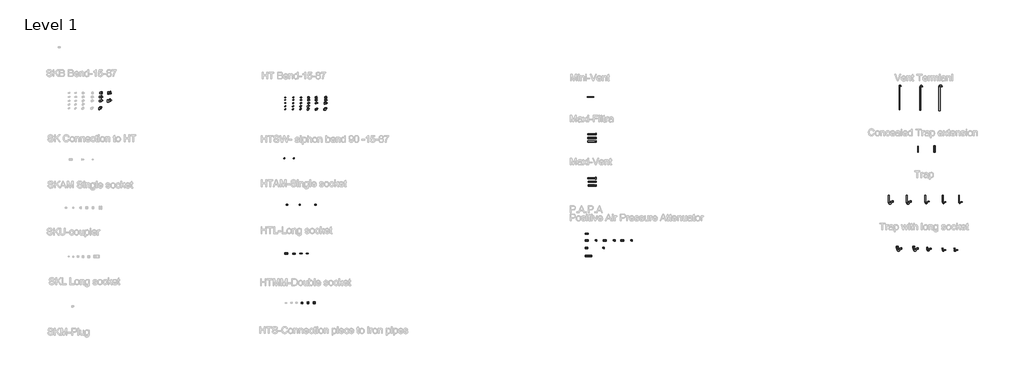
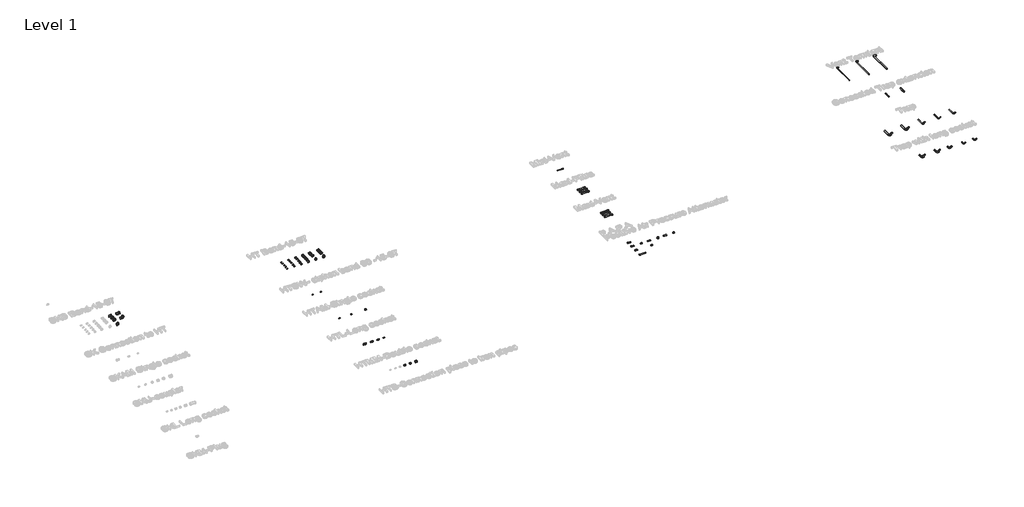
# One storey, part 3 of 29: 61 pipe fittings, 13 pipe segments, 11 valves, 3 coverings.
"""IFC4 building model written with IfcOpenShell, lengths in millimetres."""

from ifc_helpers import new_model, si_unit, point, frame, frame_2d, origin, place, context, project, spatial, circle_curve, trimmed, segment, composite_curve, outline, extrude, transform, mapped, element, save
from components import std_c07d875e, pipe_fitting_6eb50a13, pipe_fitting_cccb87dc, pipe_fitting_fc833b45, pipe_fitting_c942d72f, pipe_fitting_0ed91284, pipe_fitting_b6990175, pipe_fitting_fd9ef2f7, pipe_fitting_66c96be0, pipe_fitting_a0dc6f73, pipe_fitting_2e0013b4, pipe_fitting_27500b87, pipe_fitting_448b761f, pipe_fitting_0d2e54e3, pipe_fitting_0356ee62, pipe_fitting_aafaf56d, pipe_fitting_bdeb5dc4, pipe_fitting_e31660b5, pipe_fitting_5491f5a7, pipe_fitting_a182db8e, pipe_fitting_f3c7474d, pipe_fitting_cb3342d3, pipe_fitting_176e569c, pipe_fitting_4040f774, pipe_fitting_87851de1, pipe_fitting_66a794e8, pipe_fitting_19b4c73e, pipe_fitting_7f627d22, pipe_fitting_5a3bc76c, pipe_fitting_a134182b, pipe_fitting_02cc564f, pipe_fitting_0a0cbaeb, pipe_fitting_b2053ce9, pipe_fitting_914f9591, pipe_fitting_105f839c, pipe_fitting_70a45752, pipe_fitting_c8df41f9, pipe_fitting_53c34404, pipe_fitting_a6189db2, pipe_fitting_67239808, pipe_fitting_48ac60f8, pipe_fitting_af56b474, pipe_fitting_9ea7e918, pipe_fitting_4dd23337, pipe_fitting_79083c1f, pipe_fitting_0d33240f, pipe_fitting_ad0c7a06, pipe_fitting_799c62f6, pipe_fitting_26a0cade, pipe_fitting_4485368d, pipe_fitting_3becbbaa, pipe_fitting_54a89096, pipe_fitting_37d2b716, pipe_fitting_0eb0e26d, pipe_fitting_2dfee5c5, pipe_fitting_c8fc06a6, pipe_fitting_be7a3b5e, pipe_fitting_2ccdf74a, pipe_fitting_dd2cafb6, pipe_fitting_202c8df2, valve_b1cd4743, valve_471c44af, valve_1a6bec72, std_7a792acf

model = new_model("IFC4")

# Units and contexts
model_context = context("Model", 3, world=origin())
ifc_project = project(units=[si_unit("LENGTHUNIT", "METRE", prefix="MILLI")], contexts=[model_context])

# Site, building, storey
site = spatial("IfcSite", under=ifc_project)
building = spatial("IfcBuilding", under=site)
storey = spatial("IfcBuildingStorey", under=building, Name="Level 1", Elevation=0.0)

# Coverings
placement = place(None, origin())
std_shape = std_c07d875e(model_context)
element("IfcCovering", 1, ObjectType="Superdrain_alu cover -sh : std", at=placement, inside=storey, context=model_context, shape_type="MappedRepresentation", body=[
    mapped(std_shape, transform((44076.9523644, 17155.0245715, -0.0813961), x_axis=(0.00045242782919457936, 0.0, -0.9999998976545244), y_axis=(0.0, 0.9999999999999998, 0.0), z_axis=(0.9999998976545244, 0.0, 0.00045242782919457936))),
])
element("IfcCovering", 2, ObjectType="Superdrain_alu cover -sh : std", at=placement, inside=storey, context=model_context, shape_type="MappedRepresentation", body=[
    mapped(std_shape, transform((44087.6298597, 20724.1021309, -0.0813961), x_axis=(0.00045242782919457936, 0.0, -0.9999998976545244), y_axis=(0.0, 0.9999999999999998, 0.0), z_axis=(0.9999998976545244, 0.0, 0.00045242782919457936))),
])
element("IfcCovering", 3, ObjectType="Superdrain_alu cover -sh : std", at=placement, inside=storey, context=model_context, shape_type="MappedRepresentation", body=[
    mapped(std_shape, transform((45739.8178273, 11635.5641477, 0.0), x_axis=(0.0, 0.0, -1.0000000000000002), y_axis=(0.0, 1.0000000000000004, 0.0), z_axis=(1.0000000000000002, 0.0, 0.0))),
])

# Pipe fittings
pipe_fitting_shape = pipe_fitting_6eb50a13(model_context)
element("IfcPipeFitting", 4, ObjectType="Superdrain Vent Termianl : Superdrain Vent Termianl DN 50", at=placement, inside=storey, context=model_context, shape_type="MappedRepresentation", body=[
    mapped(pipe_fitting_shape, transform((71024.0446005, 23242.2226008, 249.0), x_axis=(1.0, 0.0, 0.0), y_axis=(0.0, 0.0, -1.0000000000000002), z_axis=(0.0, 1.0000000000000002, 0.0))),
])
pipe_fitting_2_shape = pipe_fitting_cccb87dc(model_context)
element("IfcPipeFitting", 5, ObjectType="Superdrain Vent Termianl : Superdrain Vent Termianl DN 75", at=placement, inside=storey, context=model_context, shape_type="MappedRepresentation", body=[
    mapped(pipe_fitting_2_shape, transform((72877.6964069, 23161.7714918, 249.0), x_axis=(1.0, 0.0, 0.0), y_axis=(0.0, 0.0, -1.0000000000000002), z_axis=(0.0, 1.0000000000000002, 0.0))),
])
pipe_fitting_3_shape = pipe_fitting_fc833b45(model_context)
element("IfcPipeFitting", 6, ObjectType="Superdrain Vent Termianl : Superdrain Vent Termianl DN 110", at=placement, inside=storey, context=model_context, shape_type="MappedRepresentation", body=[
    mapped(pipe_fitting_3_shape, transform((74564.3080035, 23114.8913816, 249.0), x_axis=(1.0, 0.0, 0.0), y_axis=(0.0, 0.0, -1.0000000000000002), z_axis=(0.0, 1.0000000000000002, 0.0))),
])
pipe_fitting_4_shape = pipe_fitting_c942d72f(model_context)
element("IfcPipeFitting", 7, ObjectType="Superdrain Concealed Trap extension : Superdrain Concealed Trap extension DN 50", at=placement, inside=storey, context=model_context, shape_type="MappedRepresentation", body=[
    mapped(pipe_fitting_4_shape, transform((72675.0256768, 19459.0765179, 275.0), x_axis=(0.0, 0.0, 1.0000000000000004), y_axis=(1.0000000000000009, 0.0, 0.0), z_axis=(0.0, 1.0000000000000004, 0.0))),
])
pipe_fitting_5_shape = pipe_fitting_0ed91284(model_context)
element("IfcPipeFitting", 8, ObjectType="Superdrain Concealed Trap extension : Superdrain Concealed Trap extension DN 110", at=placement, inside=storey, context=model_context, shape_type="MappedRepresentation", body=[
    mapped(pipe_fitting_5_shape, transform((74131.9084226, 19446.5765179, 294.8751277), x_axis=(0.0, 0.0, -1.0000000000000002), y_axis=(-1.0000000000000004, 0.0, 0.0), z_axis=(0.0, 1.0000000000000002, 0.0))),
])
pipe_fitting_6_shape = pipe_fitting_b6990175(model_context)
element("IfcPipeFitting", 9, ObjectType="Superdrain SKB Bend : Superdrain SKB Bend", at=placement, inside=storey, context=model_context, shape_type="MappedRepresentation", body=[
    mapped(pipe_fitting_6_shape, transform((250.4794661, 24709.074399, 0.0), x_axis=(1.0, 0.0, 0.0), y_axis=(0.0, 1.0, 0.0), z_axis=(0.0, 0.0, 1.0))),
])
pipe_fitting_7_shape = pipe_fitting_fd9ef2f7(model_context)
element("IfcPipeFitting", 10, ObjectType="Superdrain SKB Bend : Superdrain SKB Bend", at=placement, inside=storey, context=model_context, shape_type="MappedRepresentation", body=[
    mapped(pipe_fitting_7_shape, transform((250.4794661, 24352.4698153, 0.0), x_axis=(1.0, 0.0, 0.0), y_axis=(0.0, 1.0, 0.0), z_axis=(0.0, 0.0, 1.0))),
])
pipe_fitting_8_shape = pipe_fitting_66c96be0(model_context)
element("IfcPipeFitting", 11, ObjectType="Superdrain SKB Bend : Superdrain SKB Bend", at=placement, inside=storey, context=model_context, shape_type="MappedRepresentation", body=[
    mapped(pipe_fitting_8_shape, transform((250.4794661, 23995.8652317, 0.0), x_axis=(1.0, 0.0, 0.0), y_axis=(0.0, 1.0, 0.0), z_axis=(0.0, 0.0, 1.0))),
])
pipe_fitting_9_shape = pipe_fitting_a0dc6f73(model_context)
element("IfcPipeFitting", 12, ObjectType="Superdrain SKB Bend : Superdrain SKB Bend", at=placement, inside=storey, context=model_context, shape_type="MappedRepresentation", body=[
    mapped(pipe_fitting_9_shape, transform((250.4794661, 23322.0453883, 0.0), x_axis=(1.0, 0.0, 0.0), y_axis=(0.0, 1.0, 0.0), z_axis=(0.0, 0.0, 1.0))),
])
pipe_fitting_10_shape = pipe_fitting_2e0013b4(model_context)
element("IfcPipeFitting", 13, ObjectType="Superdrain SKB Bend : Superdrain SKB Bend", at=placement, inside=storey, context=model_context, shape_type="MappedRepresentation", body=[
    mapped(pipe_fitting_10_shape, transform((999.3677338, 24709.074399, 0.0), x_axis=(1.0, 0.0, 0.0), y_axis=(0.0, 1.0, 0.0), z_axis=(0.0, 0.0, 1.0))),
])
pipe_fitting_11_shape = pipe_fitting_27500b87(model_context)
element("IfcPipeFitting", 14, ObjectType="Superdrain SKB Bend : Superdrain SKB Bend", at=placement, inside=storey, context=model_context, shape_type="MappedRepresentation", body=[
    mapped(pipe_fitting_11_shape, transform((999.3677338, 23995.8652317, 0.0), x_axis=(1.0, 0.0, 0.0), y_axis=(0.0, 1.0, 0.0), z_axis=(0.0, 0.0, 1.0))),
])
pipe_fitting_12_shape = pipe_fitting_448b761f(model_context)
element("IfcPipeFitting", 15, ObjectType="Superdrain HT bend : Superdrain HT Bend", at=placement, inside=storey, context=model_context, shape_type="MappedRepresentation", body=[
    mapped(pipe_fitting_12_shape, transform((16595.9305474, 24312.7216197, 0.0), x_axis=(1.0, 0.0, 0.0), y_axis=(0.0, 1.0, 0.0), z_axis=(0.0, 0.0, 1.0))),
])
pipe_fitting_13_shape = pipe_fitting_0d2e54e3(model_context)
element("IfcPipeFitting", 16, ObjectType="Superdrain HT bend : Superdrain HT Bend", at=placement, inside=storey, context=model_context, shape_type="MappedRepresentation", body=[
    mapped(pipe_fitting_13_shape, transform((16595.9305474, 24084.365173, 0.0), x_axis=(1.0, 0.0, 0.0), y_axis=(0.0, 1.0, 0.0), z_axis=(0.0, 0.0, 1.0))),
])
pipe_fitting_14_shape = pipe_fitting_0356ee62(model_context)
element("IfcPipeFitting", 17, ObjectType="Superdrain HT bend : Superdrain HT Bend", at=placement, inside=storey, context=model_context, shape_type="MappedRepresentation", body=[
    mapped(pipe_fitting_14_shape, transform((16595.9305474, 23801.2668768, 0.0), x_axis=(1.0, 0.0, 0.0), y_axis=(0.0, 1.0, 0.0), z_axis=(0.0, 0.0, 1.0))),
])
pipe_fitting_15_shape = pipe_fitting_aafaf56d(model_context)
element("IfcPipeFitting", 18, ObjectType="Superdrain HT bend : Superdrain HT Bend", at=placement, inside=storey, context=model_context, shape_type="MappedRepresentation", body=[
    mapped(pipe_fitting_15_shape, transform((16595.9305474, 23512.7522037, 0.0), x_axis=(1.0, 0.0, 0.0), y_axis=(0.0, 1.0, 0.0), z_axis=(0.0, 0.0, 1.0))),
])
pipe_fitting_16_shape = pipe_fitting_bdeb5dc4(model_context)
element("IfcPipeFitting", 19, ObjectType="Superdrain HT bend : Superdrain HT Bend", at=placement, inside=storey, context=model_context, shape_type="MappedRepresentation", body=[
    mapped(pipe_fitting_16_shape, transform((16595.9305474, 23244.710463, 0.0), x_axis=(1.0, 0.0, 0.0), y_axis=(0.0, 1.0, 0.0), z_axis=(0.0, 0.0, 1.0))),
])
pipe_fitting_17_shape = pipe_fitting_e31660b5(model_context)
element("IfcPipeFitting", 20, ObjectType="Superdrain HT bend : Superdrain HT Bend", at=placement, inside=storey, context=model_context, shape_type="MappedRepresentation", body=[
    mapped(pipe_fitting_17_shape, transform((17295.9305474, 24312.7216197, 0.0), x_axis=(1.0, 0.0, 0.0), y_axis=(0.0, 1.0, 0.0), z_axis=(0.0, 0.0, 1.0))),
])
pipe_fitting_18_shape = pipe_fitting_5491f5a7(model_context)
element("IfcPipeFitting", 21, ObjectType="Superdrain HT bend : Superdrain HT Bend", at=placement, inside=storey, context=model_context, shape_type="MappedRepresentation", body=[
    mapped(pipe_fitting_18_shape, transform((17295.9305474, 24084.365173, 0.0), x_axis=(1.0, 0.0, 0.0), y_axis=(0.0, 1.0, 0.0), z_axis=(0.0, 0.0, 1.0))),
])
pipe_fitting_19_shape = pipe_fitting_a182db8e(model_context)
element("IfcPipeFitting", 22, ObjectType="Superdrain HT bend : Superdrain HT Bend", at=placement, inside=storey, context=model_context, shape_type="MappedRepresentation", body=[
    mapped(pipe_fitting_19_shape, transform((17295.9305474, 23801.2668768, 0.0), x_axis=(1.0, 0.0, 0.0), y_axis=(0.0, 1.0, 0.0), z_axis=(0.0, 0.0, 1.0))),
])
pipe_fitting_20_shape = pipe_fitting_f3c7474d(model_context)
element("IfcPipeFitting", 23, ObjectType="Superdrain HT bend : Superdrain HT Bend", at=placement, inside=storey, context=model_context, shape_type="MappedRepresentation", body=[
    mapped(pipe_fitting_20_shape, transform((17295.9305474, 23512.7522037, 0.0), x_axis=(1.0, 0.0, 0.0), y_axis=(0.0, 1.0, 0.0), z_axis=(0.0, 0.0, 1.0))),
])
pipe_fitting_21_shape = pipe_fitting_cb3342d3(model_context)
element("IfcPipeFitting", 24, ObjectType="Superdrain HT bend : Superdrain HT Bend", at=placement, inside=storey, context=model_context, shape_type="MappedRepresentation", body=[
    mapped(pipe_fitting_21_shape, transform((17295.9305474, 23244.710463, 0.0), x_axis=(1.0, 0.0, 0.0), y_axis=(0.0, 1.0, 0.0), z_axis=(0.0, 0.0, 1.0))),
])
pipe_fitting_22_shape = pipe_fitting_176e569c(model_context)
element("IfcPipeFitting", 25, ObjectType="Superdrain HT bend : Superdrain HT Bend", at=placement, inside=storey, context=model_context, shape_type="MappedRepresentation", body=[
    mapped(pipe_fitting_22_shape, transform((17975.9305474, 24312.7216197, 0.0), x_axis=(1.0, 0.0, 0.0), y_axis=(0.0, 1.0, 0.0), z_axis=(0.0, 0.0, 1.0))),
])
pipe_fitting_23_shape = pipe_fitting_4040f774(model_context)
element("IfcPipeFitting", 26, ObjectType="Superdrain HT bend : Superdrain HT Bend", at=placement, inside=storey, context=model_context, shape_type="MappedRepresentation", body=[
    mapped(pipe_fitting_23_shape, transform((17975.9305474, 24084.365173, 0.0), x_axis=(1.0, 0.0, 0.0), y_axis=(0.0, 1.0, 0.0), z_axis=(0.0, 0.0, 1.0))),
])
pipe_fitting_24_shape = pipe_fitting_87851de1(model_context)
element("IfcPipeFitting", 27, ObjectType="Superdrain HT bend : Superdrain HT Bend", at=placement, inside=storey, context=model_context, shape_type="MappedRepresentation", body=[
    mapped(pipe_fitting_24_shape, transform((17975.9305474, 23801.2668768, 0.0), x_axis=(1.0, 0.0, 0.0), y_axis=(0.0, 1.0, 0.0), z_axis=(0.0, 0.0, 1.0))),
])
pipe_fitting_25_shape = pipe_fitting_66a794e8(model_context)
element("IfcPipeFitting", 28, ObjectType="Superdrain HT bend : Superdrain HT Bend", at=placement, inside=storey, context=model_context, shape_type="MappedRepresentation", body=[
    mapped(pipe_fitting_25_shape, transform((17975.9305474, 23512.7522037, 0.0), x_axis=(1.0, 0.0, 0.0), y_axis=(0.0, 1.0, 0.0), z_axis=(0.0, 0.0, 1.0))),
])
pipe_fitting_26_shape = pipe_fitting_19b4c73e(model_context)
element("IfcPipeFitting", 29, ObjectType="Superdrain HT bend : Superdrain HT Bend", at=placement, inside=storey, context=model_context, shape_type="MappedRepresentation", body=[
    mapped(pipe_fitting_26_shape, transform((17975.9305474, 23244.710463, 0.0), x_axis=(1.0, 0.0, 0.0), y_axis=(0.0, 1.0, 0.0), z_axis=(0.0, 0.0, 1.0))),
])
pipe_fitting_27_shape = pipe_fitting_7f627d22(model_context)
element("IfcPipeFitting", 30, ObjectType="Superdrain HT bend : Superdrain HT Bend", at=placement, inside=storey, context=model_context, shape_type="MappedRepresentation", body=[
    mapped(pipe_fitting_27_shape, transform((18664.8339318, 24312.7216197, 0.0), x_axis=(1.0, 0.0, 0.0), y_axis=(0.0, 1.0, 0.0), z_axis=(0.0, 0.0, 1.0))),
])
pipe_fitting_28_shape = pipe_fitting_5a3bc76c(model_context)
element("IfcPipeFitting", 31, ObjectType="Superdrain HT bend : Superdrain HT Bend", at=placement, inside=storey, context=model_context, shape_type="MappedRepresentation", body=[
    mapped(pipe_fitting_28_shape, transform((18664.8339318, 24084.365173, 0.0), x_axis=(1.0, 0.0, 0.0), y_axis=(0.0, 1.0, 0.0), z_axis=(0.0, 0.0, 1.0))),
])
pipe_fitting_29_shape = pipe_fitting_a134182b(model_context)
element("IfcPipeFitting", 32, ObjectType="Superdrain HT bend : Superdrain HT Bend", at=placement, inside=storey, context=model_context, shape_type="MappedRepresentation", body=[
    mapped(pipe_fitting_29_shape, transform((18664.8339318, 23801.2668768, 0.0), x_axis=(1.0, 0.0, 0.0), y_axis=(0.0, 1.0, 0.0), z_axis=(0.0, 0.0, 1.0))),
])
pipe_fitting_30_shape = pipe_fitting_02cc564f(model_context)
element("IfcPipeFitting", 33, ObjectType="Superdrain HT bend : Superdrain HT Bend", at=placement, inside=storey, context=model_context, shape_type="MappedRepresentation", body=[
    mapped(pipe_fitting_30_shape, transform((18664.8339318, 23512.7522037, 0.0), x_axis=(1.0, 0.0, 0.0), y_axis=(0.0, 1.0, 0.0), z_axis=(0.0, 0.0, 1.0))),
])
pipe_fitting_31_shape = pipe_fitting_0a0cbaeb(model_context)
element("IfcPipeFitting", 34, ObjectType="Superdrain HT bend : Superdrain HT Bend", at=placement, inside=storey, context=model_context, shape_type="MappedRepresentation", body=[
    mapped(pipe_fitting_31_shape, transform((18664.8339318, 23244.710463, 0.0), x_axis=(1.0, 0.0, 0.0), y_axis=(0.0, 1.0, 0.0), z_axis=(0.0, 0.0, 1.0))),
])
pipe_fitting_32_shape = pipe_fitting_b2053ce9(model_context)
element("IfcPipeFitting", 35, ObjectType="Superdrain HT bend : Superdrain HT Bend", at=placement, inside=storey, context=model_context, shape_type="MappedRepresentation", body=[
    mapped(pipe_fitting_32_shape, transform((19324.8339318, 24312.7216197, 0.0), x_axis=(1.0, 0.0, 0.0), y_axis=(0.0, 1.0, 0.0), z_axis=(0.0, 0.0, 1.0))),
])
pipe_fitting_33_shape = pipe_fitting_914f9591(model_context)
element("IfcPipeFitting", 36, ObjectType="Superdrain HT bend : Superdrain HT Bend", at=placement, inside=storey, context=model_context, shape_type="MappedRepresentation", body=[
    mapped(pipe_fitting_33_shape, transform((19324.8339318, 24084.365173, 0.0), x_axis=(1.0, 0.0, 0.0), y_axis=(0.0, 1.0, 0.0), z_axis=(0.0, 0.0, 1.0))),
])
pipe_fitting_34_shape = pipe_fitting_105f839c(model_context)
element("IfcPipeFitting", 37, ObjectType="Superdrain HT bend : Superdrain HT Bend", at=placement, inside=storey, context=model_context, shape_type="MappedRepresentation", body=[
    mapped(pipe_fitting_34_shape, transform((20171.9399159, 24312.7216197, 0.0), x_axis=(1.0, 0.0, 0.0), y_axis=(0.0, 1.0, 0.0), z_axis=(0.0, 0.0, 1.0))),
])
pipe_fitting_35_shape = pipe_fitting_70a45752(model_context)
element("IfcPipeFitting", 38, ObjectType="Superdrain HT bend : Superdrain HT Bend", at=placement, inside=storey, context=model_context, shape_type="MappedRepresentation", body=[
    mapped(pipe_fitting_35_shape, transform((20171.9399159, 24084.365173, 0.0), x_axis=(1.0, 0.0, 0.0), y_axis=(0.0, 1.0, 0.0), z_axis=(0.0, 0.0, 1.0))),
])
pipe_fitting_36_shape = pipe_fitting_c8df41f9(model_context)
element("IfcPipeFitting", 39, ObjectType="Superdrain HT bend : Superdrain HT Bend", at=placement, inside=storey, context=model_context, shape_type="MappedRepresentation", body=[
    mapped(pipe_fitting_36_shape, transform((20171.9399159, 23801.2668768, 0.0), x_axis=(1.0, 0.0, 0.0), y_axis=(0.0, 1.0, 0.0), z_axis=(0.0, 0.0, 1.0))),
])
pipe_fitting_37_shape = pipe_fitting_53c34404(model_context)
element("IfcPipeFitting", 40, ObjectType="Superdrain HT bend : Superdrain HT Bend", at=placement, inside=storey, context=model_context, shape_type="MappedRepresentation", body=[
    mapped(pipe_fitting_37_shape, transform((19391.9399159, 23244.710463, 0.0), x_axis=(1.0, 0.0, 0.0), y_axis=(0.0, 1.0, 0.0), z_axis=(0.0, 0.0, 1.0))),
])
pipe_fitting_38_shape = pipe_fitting_a6189db2(model_context)
element("IfcPipeFitting", 41, ObjectType="Superdrain HT bend : Superdrain HT Bend", at=placement, inside=storey, context=model_context, shape_type="MappedRepresentation", body=[
    mapped(pipe_fitting_38_shape, transform((19344.8339318, 23801.2668768, 0.0), x_axis=(1.0, 0.0, 0.0), y_axis=(0.0, 1.0, 0.0), z_axis=(0.0, 0.0, 1.0))),
])
pipe_fitting_39_shape = pipe_fitting_67239808(model_context)
element("IfcPipeFitting", 42, ObjectType="Superdrain HT bend : Superdrain HT Bend", at=placement, inside=storey, context=model_context, shape_type="MappedRepresentation", body=[
    mapped(pipe_fitting_39_shape, transform((20171.9399159, 23244.710463, 0.0), x_axis=(1.0, 0.0, 0.0), y_axis=(0.0, 1.0, 0.0), z_axis=(0.0, 0.0, 1.0))),
])
pipe_fitting_40_shape = pipe_fitting_48ac60f8(model_context)
element("IfcPipeFitting", 43, ObjectType="Superdrain HTSW- siphon bend 90 : Superdrain  HTSW- siphon bend 90", at=placement, inside=storey, context=model_context, shape_type="MappedRepresentation", body=[
    mapped(pipe_fitting_40_shape, transform((16541.8481426, 18902.3155015, 0.0), x_axis=(1.0, 0.0, 0.0), y_axis=(0.0, 1.0, 0.0), z_axis=(0.0, 0.0, 1.0))),
])
pipe_fitting_41_shape = pipe_fitting_af56b474(model_context)
element("IfcPipeFitting", 44, ObjectType="Superdrain HTSW- siphon bend 90 : Superdrain  HTSW- siphon bend 90", at=placement, inside=storey, context=model_context, shape_type="MappedRepresentation", body=[
    mapped(pipe_fitting_41_shape, transform((17361.8481426, 18902.3155015, 0.0), x_axis=(1.0, 0.0, 0.0), y_axis=(0.0, 1.0, 0.0), z_axis=(0.0, 0.0, 1.0))),
])
pipe_fitting_42_shape = pipe_fitting_9ea7e918(model_context)
element("IfcPipeFitting", 45, ObjectType="Superdrain HTAM-Single socket : Superdrain HTAM-Single socket", at=placement, inside=storey, context=model_context, shape_type="MappedRepresentation", body=[
    mapped(pipe_fitting_42_shape, transform((16744.627756, 14805.752581, 0.0), x_axis=(1.0, 0.0, 0.0), y_axis=(0.0, 1.0, 0.0), z_axis=(0.0, 0.0, 1.0))),
])
pipe_fitting_43_shape = pipe_fitting_4dd23337(model_context)
element("IfcPipeFitting", 46, ObjectType="Superdrain HTAM-Single socket : Superdrain HTAM-Single socket", at=placement, inside=storey, context=model_context, shape_type="MappedRepresentation", body=[
    mapped(pipe_fitting_43_shape, transform((19279.6832012, 14804.159831, 0.0), x_axis=(1.0, 0.0, 0.0), y_axis=(0.0, 1.0, 0.0), z_axis=(0.0, 0.0, 1.0))),
])
pipe_fitting_44_shape = pipe_fitting_79083c1f(model_context)
element("IfcPipeFitting", 47, ObjectType="Superdrain HTMM-Double socket : Superdrain HTMM-Double socket", at=placement, inside=storey, context=model_context, shape_type="MappedRepresentation", body=[
    mapped(pipe_fitting_44_shape, transform((18059.7682012, 6113.6610392, 0.0), x_axis=(1.0, 0.0, 0.0), y_axis=(0.0, 1.0, 0.0), z_axis=(0.0, 0.0, 1.0))),
])
pipe_fitting_45_shape = pipe_fitting_0d33240f(model_context)
element("IfcPipeFitting", 48, ObjectType="Superdrain HTMM-Double socket : Superdrain HTMM-Double socket", at=placement, inside=storey, context=model_context, shape_type="MappedRepresentation", body=[
    mapped(pipe_fitting_45_shape, transform((18594.6725971, 6113.6610392, 0.0), x_axis=(1.0, 0.0, 0.0), y_axis=(0.0, 1.0, 0.0), z_axis=(0.0, 0.0, 1.0))),
])
pipe_fitting_46_shape = pipe_fitting_ad0c7a06(model_context)
element("IfcPipeFitting", 49, ObjectType="Superdrain HTMM-Double socket : Superdrain HTMM-Double socket", at=placement, inside=storey, context=model_context, shape_type="MappedRepresentation", body=[
    mapped(pipe_fitting_46_shape, transform((19146.9722579, 6113.6610392, 0.0), x_axis=(1.0, 0.0, 0.0), y_axis=(0.0, 1.0, 0.0), z_axis=(0.0, 0.0, 1.0))),
])
pipe_fitting_47_shape = pipe_fitting_799c62f6(model_context)
element("IfcPipeFitting", 50, ObjectType="Superdrain HTL-Long socket : Superdrain HTL-Long socket", at=placement, inside=storey, context=model_context, shape_type="MappedRepresentation", body=[
    mapped(pipe_fitting_47_shape, transform((16761.6083725, 10471.9556178, 0.0), x_axis=(1.0, 0.0, 0.0), y_axis=(0.0, 1.0, 0.0), z_axis=(0.0, 0.0, 1.0))),
])
pipe_fitting_48_shape = pipe_fitting_26a0cade(model_context)
element("IfcPipeFitting", 51, ObjectType="Superdrain HTL-Long socket : Superdrain HTL-Long socket", at=placement, inside=storey, context=model_context, shape_type="MappedRepresentation", body=[
    mapped(pipe_fitting_48_shape, transform((18030.7717484, 10471.9556178, 0.0), x_axis=(1.0, 0.0, 0.0), y_axis=(0.0, 1.0, 0.0), z_axis=(0.0, 0.0, 1.0))),
])
pipe_fitting_49_shape = pipe_fitting_4485368d(model_context)
element("IfcPipeFitting", 52, ObjectType="Superdrain HTL-Long socket : Superdrain HTL-Long socket", at=placement, inside=storey, context=model_context, shape_type="MappedRepresentation", body=[
    mapped(pipe_fitting_49_shape, transform((18581.1539326, 10471.9556178, 0.0), x_axis=(1.0, 0.0, 0.0), y_axis=(0.0, 1.0, 0.0), z_axis=(0.0, 0.0, 1.0))),
])
pipe_fitting_50_shape = pipe_fitting_3becbbaa(model_context)
element("IfcPipeFitting", 53, ObjectType="Superdrain Trap with long socket : Superdrain Trap with long socket", at=placement, inside=storey, context=model_context, shape_type="MappedRepresentation", body=[
    mapped(pipe_fitting_50_shape, transform((74842.2937244, 10801.1780174, 0.0), x_axis=(0.0, -1.0, 0.0), y_axis=(1.0, 0.0, 0.0), z_axis=(0.0, 0.0, 1.0))),
])
pipe_fitting_51_shape = pipe_fitting_54a89096(model_context)
element("IfcPipeFitting", 54, ObjectType="Superdrain Trap : Superdrain Trap", at=placement, inside=storey, context=model_context, shape_type="MappedRepresentation", body=[
    mapped(pipe_fitting_51_shape, transform((73324.4276795, 15088.2449647, 0.0), x_axis=(0.0, -1.0000000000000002, 0.0), y_axis=(1.0000000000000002, 0.0, 0.0), z_axis=(0.0, 0.0, 1.0))),
])
pipe_fitting_52_shape = pipe_fitting_37d2b716(model_context)
element("IfcPipeFitting", 55, ObjectType="Superdrain Trap : Superdrain Trap", at=placement, inside=storey, context=model_context, shape_type="MappedRepresentation", body=[
    mapped(pipe_fitting_52_shape, transform((76305.1579292, 15034.3037175, 0.0), x_axis=(0.0, -1.0, 0.0), y_axis=(1.0, 0.0, 0.0), z_axis=(0.0, 0.0, 1.0))),
])
pipe_fitting_53_shape = pipe_fitting_0eb0e26d(model_context)
element("IfcPipeFitting", 56, ObjectType="Superdrain Trap : Superdrain Trap", at=placement, inside=storey, context=model_context, shape_type="MappedRepresentation", body=[
    mapped(pipe_fitting_53_shape, transform((74867.681957, 15034.3037175, 0.0), x_axis=(0.0, -1.0000000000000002, 0.0), y_axis=(1.0000000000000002, 0.0, 0.0), z_axis=(0.0, 0.0, 1.0))),
])
pipe_fitting_54_shape = pipe_fitting_2dfee5c5(model_context)
element("IfcPipeFitting", 57, ObjectType="Superdrain Trap : Superdrain Trap", at=placement, inside=storey, context=model_context, shape_type="MappedRepresentation", body=[
    mapped(pipe_fitting_54_shape, transform((70073.2420133, 15088.2449647, 0.0), x_axis=(0.0, -1.0, 0.0), y_axis=(1.0, 0.0, 0.0), z_axis=(0.0, 0.0, 1.0))),
])
pipe_fitting_55_shape = pipe_fitting_c8fc06a6(model_context)
element("IfcPipeFitting", 58, ObjectType="Superdrain Trap : Superdrain Trap", at=placement, inside=storey, context=model_context, shape_type="MappedRepresentation", body=[
    mapped(pipe_fitting_55_shape, transform((71673.2420133, 15088.2449647, 0.0), x_axis=(0.0, -1.0, 0.0), y_axis=(1.0, 0.0, 0.0), z_axis=(0.0, 0.0, 1.0))),
])
pipe_fitting_56_shape = pipe_fitting_be7a3b5e(model_context)
element("IfcPipeFitting", 59, ObjectType="Superdrain Trap with long socket : Superdrain Trap with long socket", at=placement, inside=storey, context=model_context, shape_type="MappedRepresentation", body=[
    mapped(pipe_fitting_56_shape, transform((70829.5437244, 10925.9280174, 0.0), x_axis=(0.0, -1.0000000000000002, 0.0), y_axis=(1.0000000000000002, 0.0, 0.0), z_axis=(0.0, 0.0, 1.0))),
])
element("IfcPipeFitting", 60, ObjectType="Superdrain Trap with long socket : Superdrain Trap with long socket", at=placement, inside=storey, context=model_context, shape_type="MappedRepresentation", body=[
    mapped(pipe_fitting_56_shape, transform((72289.5437244, 10925.9280174, 0.0), x_axis=(0.0, -1.0000000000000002, 0.0), y_axis=(1.0000000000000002, 0.0, 0.0), z_axis=(0.0, 0.0, 1.0))),
])
pipe_fitting_57_shape = pipe_fitting_2ccdf74a(model_context)
element("IfcPipeFitting", 61, ObjectType="Superdrain Trap with long socket : Superdrain Trap with long socket", at=placement, inside=storey, context=model_context, shape_type="MappedRepresentation", body=[
    mapped(pipe_fitting_57_shape, transform((73482.2937244, 10901.1780174, 0.0), x_axis=(0.0, -1.0, 0.0), y_axis=(1.0, 0.0, 0.0), z_axis=(0.0, 0.0, 1.0))),
])
element("IfcPipeFitting", 62, ObjectType="Superdrain Trap with long socket : Superdrain Trap with long socket", at=placement, inside=storey, context=model_context, shape_type="MappedRepresentation", body=[
    mapped(pipe_fitting_50_shape, transform((75902.2937244, 10801.1780174, 0.0), x_axis=(0.0, -1.0, 0.0), y_axis=(1.0, 0.0, 0.0), z_axis=(0.0, 0.0, 1.0))),
])
pipe_fitting_58_shape = pipe_fitting_dd2cafb6(model_context)
element("IfcPipeFitting", 63, ObjectType="Superdrain HTAM-Single socket : Superdrain HTAM-Single socket", at=placement, inside=storey, context=model_context, shape_type="MappedRepresentation", body=[
    mapped(pipe_fitting_58_shape, transform((17891.7592104, 14804.159831, 0.0), x_axis=(1.0, 0.0, 0.0), y_axis=(0.0, 1.0, 0.0), z_axis=(0.0, 0.0, 1.0))),
])
pipe_fitting_59_shape = pipe_fitting_202c8df2(model_context)
element("IfcPipeFitting", 64, ObjectType="Superdrain HTL-Long socket : Superdrain HTL-Long socket", at=placement, inside=storey, context=model_context, shape_type="MappedRepresentation", body=[
    mapped(pipe_fitting_59_shape, transform((17434.2717959, 10471.9556178, 0.0), x_axis=(1.0, 0.0, 0.0), y_axis=(0.0, 1.0, 0.0), z_axis=(0.0, 0.0, 1.0))),
])

# Pipe segments
element("IfcPipeSegment", 65, ObjectType="Superdrain Double socket pipe HTEM - 3000 mm", at=placement, inside=storey, context=model_context, shape_type="SweptSolid", body=[
    extrude(outline(composite_curve([segment(trimmed(circle_curve(frame_2d((11635.5641477, 0.0)), 55.0), [point((11580.5641477, 0.0))], [point((11635.5641477, 55.0))], False, "CARTESIAN"), True, "CONTINUOUS"), segment(trimmed(circle_curve(frame_2d((11635.5641477, 0.0)), 55.0), [point((11635.5641477, 55.0))], [point((11690.5641477, 0.0))], False, "CARTESIAN"), True, "CONTINUOUS"), segment(trimmed(circle_curve(frame_2d((11635.5641477, 0.0)), 55.0), [point((11690.5641477, 0.0))], [point((11635.5641477, -55.0))], False, "CARTESIAN"), True, "CONTINUOUS"), segment(trimmed(circle_curve(frame_2d((11635.5641477, 0.0)), 55.0), [point((11635.5641477, -55.0))], [point((11580.5641477, 0.0))], False, "CARTESIAN"), True, "CONTINUOUS")], self_intersect=False)), frame((43171.605451, 0.0, 0.0), z_axis=(1.0, 0.0, 0.0), x_axis=(0.0, 1.0, 0.0)), (0.0, 0.0, 1.0), 272.1309433),
])
element("IfcPipeSegment", 66, ObjectType="Superdrain Double socket pipe HTEM - 3000 mm", at=placement, inside=storey, context=model_context, shape_type="SweptSolid", body=[
    extrude(outline(composite_curve([segment(trimmed(circle_curve(frame_2d((10256.6211127, 0.0)), 55.0), [point((10201.6211127, 0.0))], [point((10256.6211127, 55.0))], False, "CARTESIAN"), True, "CONTINUOUS"), segment(trimmed(circle_curve(frame_2d((10256.6211127, 0.0)), 55.0), [point((10256.6211127, 55.0))], [point((10311.6211127, 0.0))], False, "CARTESIAN"), True, "CONTINUOUS"), segment(trimmed(circle_curve(frame_2d((10256.6211127, 0.0)), 55.0), [point((10311.6211127, 0.0))], [point((10256.6211127, -55.0))], False, "CARTESIAN"), True, "CONTINUOUS"), segment(trimmed(circle_curve(frame_2d((10256.6211127, 0.0)), 55.0), [point((10256.6211127, -55.0))], [point((10201.6211127, 0.0))], False, "CARTESIAN"), True, "CONTINUOUS")], self_intersect=False)), frame((43171.605451, 0.0, 0.0), z_axis=(1.0, 0.0, 0.0), x_axis=(0.0, 1.0, 0.0)), (0.0, 0.0, 1.0), 605.3668832),
])
element("IfcPipeSegment", 67, ObjectType="Superdrain Double socket pipe HTEM - 3000 mm", at=placement, inside=storey, context=model_context, shape_type="SweptSolid", body=[
    extrude(outline(composite_curve([segment(trimmed(circle_curve(frame_2d((10974.1475622, 0.0)), 55.0), [point((11029.1475622, 0.0))], [point((10974.1475622, -55.0))], False, "CARTESIAN"), True, "CONTINUOUS"), segment(trimmed(circle_curve(frame_2d((10974.1475622, 0.0)), 55.0), [point((10974.1475622, -55.0))], [point((10919.1475622, 0.0))], False, "CARTESIAN"), True, "CONTINUOUS"), segment(trimmed(circle_curve(frame_2d((10974.1475622, 0.0)), 55.0), [point((10919.1475622, 0.0))], [point((10974.1475622, 55.0))], False, "CARTESIAN"), True, "CONTINUOUS"), segment(trimmed(circle_curve(frame_2d((10974.1475622, 0.0)), 55.0), [point((10974.1475622, 55.0))], [point((11029.1475622, 0.0))], False, "CARTESIAN"), True, "CONTINUOUS")], self_intersect=False)), frame((43171.605451, 0.0, 0.0), z_axis=(1.0, 0.0, 0.0), x_axis=(0.0, 1.0, 0.0)), (0.0, 0.0, 1.0), 234.8371933),
])
element("IfcPipeSegment", 68, ObjectType="Superdrain Double socket pipe HTEM - 3000 mm", at=placement, inside=storey, context=model_context, shape_type="SweptSolid", body=[
    extrude(outline(composite_curve([segment(trimmed(circle_curve(frame_2d((17155.0245715, 0.0)), 55.0), [point((17210.0245715, 0.0))], [point((17155.0245715, -55.0))], False, "CARTESIAN"), True, "CONTINUOUS"), segment(trimmed(circle_curve(frame_2d((17155.0245715, 0.0)), 55.0), [point((17155.0245715, -55.0))], [point((17100.0245715, 0.0))], False, "CARTESIAN"), True, "CONTINUOUS"), segment(trimmed(circle_curve(frame_2d((17155.0245715, 0.0)), 55.0), [point((17100.0245715, 0.0))], [point((17155.0245715, 55.0))], False, "CARTESIAN"), True, "CONTINUOUS"), segment(trimmed(circle_curve(frame_2d((17155.0245715, 0.0)), 55.0), [point((17155.0245715, 55.0))], [point((17210.0245715, 0.0))], False, "CARTESIAN"), True, "CONTINUOUS")], self_intersect=False)), frame((43422.6128334, 0.0, 0.0), z_axis=(1.0, 0.0, 0.0), x_axis=(0.0, 1.0, 0.0)), (0.0, 0.0, 1.0), 599.6668832),
])
element("IfcPipeSegment", 69, ObjectType="Superdrain Double socket pipe HTEM - 3000 mm", at=placement, inside=storey, context=model_context, shape_type="SweptSolid", body=[
    extrude(outline(composite_curve([segment(trimmed(circle_curve(frame_2d((21061.9909793, 0.0)), 55.0), [point((21006.9909793, 0.0))], [point((21061.9909793, 55.0))], False, "CARTESIAN"), True, "CONTINUOUS"), segment(trimmed(circle_curve(frame_2d((21061.9909793, 0.0)), 55.0), [point((21061.9909793, 55.0))], [point((21116.9909793, 0.0))], False, "CARTESIAN"), True, "CONTINUOUS"), segment(trimmed(circle_curve(frame_2d((21061.9909793, 0.0)), 55.0), [point((21116.9909793, 0.0))], [point((21061.9909793, -55.0))], False, "CARTESIAN"), True, "CONTINUOUS"), segment(trimmed(circle_curve(frame_2d((21061.9909793, 0.0)), 55.0), [point((21061.9909793, -55.0))], [point((21006.9909793, 0.0))], False, "CARTESIAN"), True, "CONTINUOUS")], self_intersect=False)), frame((43422.1384268, 0.0, 0.0), z_axis=(1.0, 0.0, 0.0), x_axis=(0.0, 1.0, 0.0)), (0.0, 0.0, 1.0), 599.6668832),
])
element("IfcPipeSegment", 70, ObjectType="Superdrain Double socket pipe HTEM - 3000 mm", at=placement, inside=storey, context=model_context, shape_type="SweptSolid", body=[
    extrude(outline(composite_curve([segment(trimmed(circle_curve(frame_2d((20724.1021309, 0.0)), 55.0), [point((20779.1021309, 0.0))], [point((20724.1021309, -55.0))], False, "CARTESIAN"), True, "CONTINUOUS"), segment(trimmed(circle_curve(frame_2d((20724.1021309, 0.0)), 55.0), [point((20724.1021309, -55.0))], [point((20669.1021309, 0.0))], False, "CARTESIAN"), True, "CONTINUOUS"), segment(trimmed(circle_curve(frame_2d((20724.1021309, 0.0)), 55.0), [point((20669.1021309, 0.0))], [point((20724.1021309, 55.0))], False, "CARTESIAN"), True, "CONTINUOUS"), segment(trimmed(circle_curve(frame_2d((20724.1021309, 0.0)), 55.0), [point((20724.1021309, 55.0))], [point((20779.1021309, 0.0))], False, "CARTESIAN"), True, "CONTINUOUS")], self_intersect=False)), frame((43422.1384268, 0.0, 0.0), z_axis=(1.0, 0.0, 0.0), x_axis=(0.0, 1.0, 0.0)), (0.0, 0.0, 1.0), 599.6668832),
])
element("IfcPipeSegment", 71, ObjectType="Superdrain Single socket pipe HTEM - 3000 mm", at=placement, inside=storey, context=model_context, shape_type="SweptSolid", body=[
    extrude(outline(composite_curve([segment(trimmed(circle_curve(frame_2d((24363.1809942, 0.0)), 25.0), [point((24388.1809942, 0.0))], [point((24363.1809942, -25.0))], False, "CARTESIAN"), True, "CONTINUOUS"), segment(trimmed(circle_curve(frame_2d((24363.1809942, 0.0)), 25.0), [point((24363.1809942, -25.0))], [point((24338.1809942, 0.0))], False, "CARTESIAN"), True, "CONTINUOUS"), segment(trimmed(circle_curve(frame_2d((24363.1809942, 0.0)), 25.0), [point((24338.1809942, 0.0))], [point((24363.1809942, 25.0))], False, "CARTESIAN"), True, "CONTINUOUS"), segment(trimmed(circle_curve(frame_2d((24363.1809942, 0.0)), 25.0), [point((24363.1809942, 25.0))], [point((24388.1809942, 0.0))], False, "CARTESIAN"), True, "CONTINUOUS")], self_intersect=False)), frame((43378.5568275, 0.0, 0.0), z_axis=(1.0, 0.0, 0.0), x_axis=(0.0, 1.0, 0.0)), (0.0, 0.0, 1.0), 490.8),
])
element("IfcPipeSegment", 72, ObjectType="Superdrain Double socket pipe HTEM - 3000 mm", at=placement, inside=storey, context=model_context, shape_type="SweptSolid", body=[
    extrude(outline(composite_curve([segment(trimmed(circle_curve(frame_2d((12235.5641477, 0.0)), 55.0), [point((12180.5641477, 0.0))], [point((12235.5641477, 55.0))], False, "CARTESIAN"), True, "CONTINUOUS"), segment(trimmed(circle_curve(frame_2d((12235.5641477, 0.0)), 55.0), [point((12235.5641477, 55.0))], [point((12290.5641477, 0.0))], False, "CARTESIAN"), True, "CONTINUOUS"), segment(trimmed(circle_curve(frame_2d((12235.5641477, 0.0)), 55.0), [point((12290.5641477, 0.0))], [point((12235.5641477, -55.0))], False, "CARTESIAN"), True, "CONTINUOUS"), segment(trimmed(circle_curve(frame_2d((12235.5641477, 0.0)), 55.0), [point((12235.5641477, -55.0))], [point((12180.5641477, 0.0))], False, "CARTESIAN"), True, "CONTINUOUS")], self_intersect=False)), frame((43171.605451, 0.0, 0.0), z_axis=(1.0, 0.0, 0.0), x_axis=(0.0, 1.0, 0.0)), (0.0, 0.0, 1.0), 272.1309433),
])
element("IfcPipeSegment", 73, ObjectType="Superdrain Double socket pipe HTEM - 3000 mm", at=placement, inside=storey, context=model_context, shape_type="SweptSolid", body=[
    extrude(outline(composite_curve([segment(trimmed(circle_curve(frame_2d((11635.5641477, 0.0)), 55.0), [point((11580.5641477, 0.0))], [point((11635.5641477, 55.0))], False, "CARTESIAN"), True, "CONTINUOUS"), segment(trimmed(circle_curve(frame_2d((11635.5641477, 0.0)), 55.0), [point((11635.5641477, 55.0))], [point((11690.5641477, 0.0))], False, "CARTESIAN"), True, "CONTINUOUS"), segment(trimmed(circle_curve(frame_2d((11635.5641477, 0.0)), 55.0), [point((11690.5641477, 0.0))], [point((11635.5641477, -55.0))], False, "CARTESIAN"), True, "CONTINUOUS"), segment(trimmed(circle_curve(frame_2d((11635.5641477, 0.0)), 55.0), [point((11635.5641477, -55.0))], [point((11580.5641477, 0.0))], False, "CARTESIAN"), True, "CONTINUOUS")], self_intersect=False)), frame((44771.605451, 0.0, 0.0), z_axis=(1.0, 0.0, 0.0), x_axis=(0.0, 1.0, 0.0)), (0.0, 0.0, 1.0), 272.1309433),
])
element("IfcPipeSegment", 74, ObjectType="Superdrain Double socket pipe HTEM - 3000 mm", at=placement, inside=storey, context=model_context, shape_type="SweptSolid", body=[
    extrude(outline(composite_curve([segment(trimmed(circle_curve(frame_2d((16844.7692072, 0.0)), 55.0), [point((16789.7692072, 0.0))], [point((16844.7692072, 55.0))], False, "CARTESIAN"), True, "CONTINUOUS"), segment(trimmed(circle_curve(frame_2d((16844.7692072, 0.0)), 55.0), [point((16844.7692072, 55.0))], [point((16899.7692072, 0.0))], False, "CARTESIAN"), True, "CONTINUOUS"), segment(trimmed(circle_curve(frame_2d((16844.7692072, 0.0)), 55.0), [point((16899.7692072, 0.0))], [point((16844.7692072, -55.0))], False, "CARTESIAN"), True, "CONTINUOUS"), segment(trimmed(circle_curve(frame_2d((16844.7692072, 0.0)), 55.0), [point((16844.7692072, -55.0))], [point((16789.7692072, 0.0))], False, "CARTESIAN"), True, "CONTINUOUS")], self_intersect=False)), frame((43425.4385351, 0.0, 0.0), z_axis=(1.0, 0.0, 0.0), x_axis=(0.0, 1.0, 0.0)), (0.0, 0.0, 1.0), 599.6668832),
])
element("IfcPipeSegment", 75, ObjectType="Superdrain Double socket pipe HTEM - 3000 mm", at=placement, inside=storey, context=model_context, shape_type="SweptSolid", body=[
    extrude(outline(composite_curve([segment(trimmed(circle_curve(frame_2d((16505.2351654, 0.0)), 55.0), [point((16560.2351654, 0.0))], [point((16505.2351654, -55.0))], False, "CARTESIAN"), True, "CONTINUOUS"), segment(trimmed(circle_curve(frame_2d((16505.2351654, 0.0)), 55.0), [point((16505.2351654, -55.0))], [point((16450.2351654, 0.0))], False, "CARTESIAN"), True, "CONTINUOUS"), segment(trimmed(circle_curve(frame_2d((16505.2351654, 0.0)), 55.0), [point((16450.2351654, 0.0))], [point((16505.2351654, 55.0))], False, "CARTESIAN"), True, "CONTINUOUS"), segment(trimmed(circle_curve(frame_2d((16505.2351654, 0.0)), 55.0), [point((16505.2351654, 55.0))], [point((16560.2351654, 0.0))], False, "CARTESIAN"), True, "CONTINUOUS")], self_intersect=False)), frame((43425.4385351, 0.0, 0.0), z_axis=(1.0, 0.0, 0.0), x_axis=(0.0, 1.0, 0.0)), (0.0, 0.0, 1.0), 617.4611083),
])
element("IfcPipeSegment", 76, ObjectType="Superdrain Double socket pipe HTEM - 3000 mm", at=placement, inside=storey, context=model_context, shape_type="SweptSolid", body=[
    extrude(outline(composite_curve([segment(trimmed(circle_curve(frame_2d((20400.5614799, 0.0)), 55.0), [point((20345.5614799, 0.0))], [point((20400.5614799, 55.0))], False, "CARTESIAN"), True, "CONTINUOUS"), segment(trimmed(circle_curve(frame_2d((20400.5614799, 0.0)), 55.0), [point((20400.5614799, 55.0))], [point((20455.5614799, 0.0))], False, "CARTESIAN"), True, "CONTINUOUS"), segment(trimmed(circle_curve(frame_2d((20400.5614799, 0.0)), 55.0), [point((20455.5614799, 0.0))], [point((20400.5614799, -55.0))], False, "CARTESIAN"), True, "CONTINUOUS"), segment(trimmed(circle_curve(frame_2d((20400.5614799, 0.0)), 55.0), [point((20400.5614799, -55.0))], [point((20345.5614799, 0.0))], False, "CARTESIAN"), True, "CONTINUOUS")], self_intersect=False)), frame((43422.1384268, 0.0, 0.0), z_axis=(1.0, 0.0, 0.0), x_axis=(0.0, 1.0, 0.0)), (0.0, 0.0, 1.0), 599.6668832),
])
element("IfcPipeSegment", 77, ObjectType="Superdrain Double socket pipe HTEM - 3000 mm", at=placement, inside=storey, context=model_context, shape_type="SweptSolid", body=[
    extrude(outline(composite_curve([segment(trimmed(circle_curve(frame_2d((11635.5641477, 0.0)), 55.0), [point((11580.5641477, 0.0))], [point((11635.5641477, 55.0))], False, "CARTESIAN"), True, "CONTINUOUS"), segment(trimmed(circle_curve(frame_2d((11635.5641477, 0.0)), 55.0), [point((11635.5641477, 55.0))], [point((11690.5641477, 0.0))], False, "CARTESIAN"), True, "CONTINUOUS"), segment(trimmed(circle_curve(frame_2d((11635.5641477, 0.0)), 55.0), [point((11690.5641477, 0.0))], [point((11635.5641477, -55.0))], False, "CARTESIAN"), True, "CONTINUOUS"), segment(trimmed(circle_curve(frame_2d((11635.5641477, 0.0)), 55.0), [point((11635.5641477, -55.0))], [point((11580.5641477, 0.0))], False, "CARTESIAN"), True, "CONTINUOUS")], self_intersect=False)), frame((46311.605451, 0.0, 0.0), z_axis=(1.0, 0.0, 0.0), x_axis=(0.0, 1.0, 0.0)), (0.0, 0.0, 1.0), 272.1309433),
])

# Valves
valve_shape = valve_b1cd4743(model_context)
element("IfcValve", 78, ObjectType="Superdrain_Maxi-Filtra : Superdrain_Maxi-Filtra DN100", at=placement, inside=storey, context=model_context, shape_type="MappedRepresentation", body=[
    mapped(valve_shape, transform((44022.1384268, 20400.5614799, 0.0), x_axis=(1.0, 0.0, 0.0), y_axis=(0.0, 1.0, 0.0), z_axis=(0.0, 0.0, 1.0))),
])
valve_2_shape = valve_471c44af(model_context)
element("IfcValve", 79, ObjectType="Superdrain_Mini-Vent : Superdrain_ Mini-Vent DN 50", at=placement, inside=storey, context=model_context, shape_type="MappedRepresentation", body=[
    mapped(valve_2_shape, transform((43869.3568275, 24363.1809942, 0.0), x_axis=(1.0, 0.0, 0.0), y_axis=(0.0, 0.9999999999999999, 0.0), z_axis=(0.0, 0.0, 0.9999999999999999))),
])
valve_3_shape = valve_1a6bec72(model_context)
element("IfcValve", 80, ObjectType="Superdrain_Maxi-Vent : Superdrain Maxi-Vent DN100", at=placement, inside=storey, context=model_context, shape_type="MappedRepresentation", body=[
    mapped(valve_3_shape, transform((44043.2327603, 16505.2351654, 0.0), x_axis=(1.0, 0.0, 0.0), y_axis=(0.0, 1.0, 0.0), z_axis=(0.0, 0.0, 1.0))),
])
element("IfcValve", 81, ObjectType="Superdrain_Maxi-Filtra : Superdrain_Maxi-Filtra DN100", at=placement, inside=storey, context=model_context, shape_type="MappedRepresentation", body=[
    mapped(valve_shape, transform((44022.1384268, 21061.9909793, 0.0), x_axis=(1.0, 0.0, 0.0), y_axis=(0.0, 1.0, 0.0), z_axis=(0.0, 0.0, 1.0))),
])
element("IfcValve", 82, ObjectType="Superdrain_Maxi-Filtra : Superdrain_Maxi-Filtra DN100", at=placement, inside=storey, context=model_context, shape_type="MappedRepresentation", body=[
    mapped(valve_shape, transform((44022.1384268, 20724.1021309, 0.0), x_axis=(1.0, 0.0, 0.0), y_axis=(0.0, 1.0, 0.0), z_axis=(0.0, 0.0, 1.0))),
])
element("IfcValve", 83, ObjectType="Superdrain_Maxi-Vent : Superdrain Maxi-Vent DN100", at=placement, inside=storey, context=model_context, shape_type="MappedRepresentation", body=[
    mapped(valve_3_shape, transform((44022.6128334, 17155.0245715, 0.0), x_axis=(1.0, 0.0, 0.0), y_axis=(0.0, 1.0, 0.0), z_axis=(0.0, 0.0, 1.0))),
])
element("IfcValve", 84, ObjectType="Superdrain_Maxi-Vent : Superdrain Maxi-Vent DN100", at=placement, inside=storey, context=model_context, shape_type="MappedRepresentation", body=[
    mapped(valve_3_shape, transform((44025.4385351, 16844.7692072, 0.0), x_axis=(1.0, 0.0, 0.0), y_axis=(0.0, 1.0, 0.0), z_axis=(0.0, 0.0, 1.0))),
])
std_2_shape = std_7a792acf(model_context)
element("IfcValve", 85, ObjectType="Superdrain_Maxi-Vent -sh : std", at=placement, inside=storey, context=model_context, shape_type="MappedRepresentation", body=[
    mapped(std_2_shape, transform((44711.5762242, 10974.1475622, 0.0), x_axis=(0.0, 1.0000000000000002, 0.0), y_axis=(0.0, 0.0, 1.0000000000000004), z_axis=(1.0000000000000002, 0.0, 0.0))),
])
element("IfcValve", 86, ObjectType="Superdrain_Maxi-Vent -sh : std", at=placement, inside=storey, context=model_context, shape_type="MappedRepresentation", body=[
    mapped(std_2_shape, transform((44077.4732522, 11635.5641477, 0.0), x_axis=(0.0, 0.0, -1.0000000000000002), y_axis=(0.0, 1.0000000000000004, 0.0), z_axis=(1.0000000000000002, 0.0, 0.0))),
])
element("IfcValve", 87, ObjectType="Superdrain_Maxi-Vent -sh : std", at=placement, inside=storey, context=model_context, shape_type="MappedRepresentation", body=[
    mapped(std_2_shape, transform((45677.4732522, 11635.5641477, 0.0), x_axis=(0.0, 0.0, -1.0000000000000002), y_axis=(0.0, 1.0000000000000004, 0.0), z_axis=(1.0000000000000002, 0.0, 0.0))),
])
element("IfcValve", 88, ObjectType="Superdrain_Maxi-Vent -sh : std", at=placement, inside=storey, context=model_context, shape_type="MappedRepresentation", body=[
    mapped(std_2_shape, transform((47217.4732522, 11635.5641477, 0.0), x_axis=(0.0, 0.0, -1.0000000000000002), y_axis=(0.0, 1.0000000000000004, 0.0), z_axis=(1.0000000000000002, 0.0, 0.0))),
])

save(model, "model.ifc")
